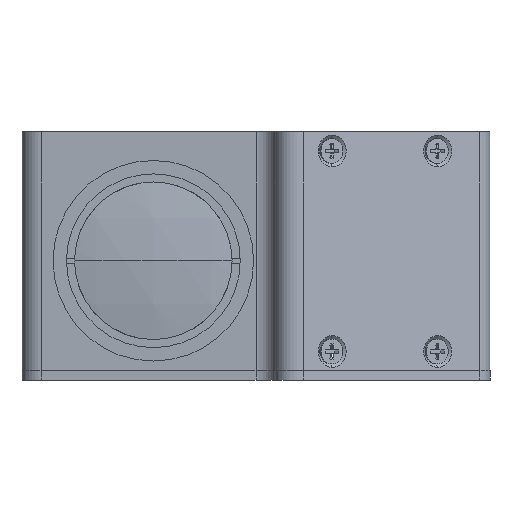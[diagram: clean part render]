
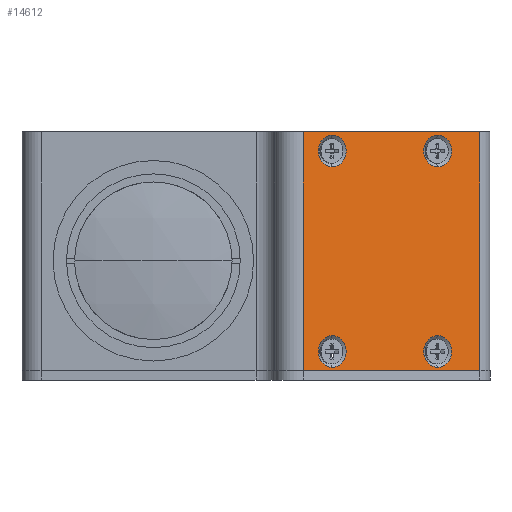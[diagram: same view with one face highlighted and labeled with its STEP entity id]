
A CAD part, left-side view. The second image highlights one B-rep face of the part: STEP entity #14612.
In plain terms, the highlighted planar face has unit normal (-0.883, -0.469, 0).
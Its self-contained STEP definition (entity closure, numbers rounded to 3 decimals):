
#26 = CARTESIAN_POINT ( 'NONE',  ( 59.561, -59.548, 26.3 ) ) ;
#28 = FACE_BOUND ( 'NONE', #5150, .T. ) ;
#335 = DIRECTION ( 'NONE',  ( 0.469, -0.883, 0. ) ) ;
#535 = DIRECTION ( 'NONE',  ( 0., 0., 1. ) ) ;
#573 = DIRECTION ( 'NONE',  ( 0., 0., -1. ) ) ;
#578 = EDGE_CURVE ( 'NONE', #13060, #7681, #11466, .T. ) ;
#619 = EDGE_CURVE ( 'NONE', #13673, #7681, #1925, .T. ) ;
#645 = CARTESIAN_POINT ( 'NONE',  ( 59.561, -59.548, -19. ) ) ;
#689 = PLANE ( 'NONE',  #11556 ) ;
#821 = EDGE_CURVE ( 'NONE', #13060, #12080, #12936, .T. ) ;
#895 = VERTEX_POINT ( 'NONE', #2470 ) ;
#934 = EDGE_CURVE ( 'NONE', #6125, #3791, #13840, .T. ) ;
#962 = EDGE_CURVE ( 'NONE', #895, #7354, #1530, .T. ) ;
#1002 = EDGE_CURVE ( 'NONE', #3452, #3465, #1164, .T. ) ;
#1019 = EDGE_CURVE ( 'NONE', #2725, #9903, #9259, .T. ) ;
#1164 = CIRCLE ( 'NONE', #8819, 3.3 ) ;
#1530 = CIRCLE ( 'NONE', #5916, 3.3 ) ;
#1660 = CARTESIAN_POINT ( 'NONE',  ( 47.824, -37.475, 23. ) ) ;
#1831 = ORIENTED_EDGE ( 'NONE', *, *, #10274, .F. ) ;
#1850 = DIRECTION ( 'NONE',  ( 0., 0., 1. ) ) ;
#1925 = LINE ( 'NONE', #6119, #4616 ) ;
#2470 = CARTESIAN_POINT ( 'NONE',  ( 47.824, -37.475, -15.7 ) ) ;
#2577 = CARTESIAN_POINT ( 'NONE',  ( 59.561, -59.548, -19. ) ) ;
#2624 = DIRECTION ( 'NONE',  ( -0.883, -0.469, 0. ) ) ;
#2725 = VERTEX_POINT ( 'NONE', #26 ) ;
#2812 = FACE_OUTER_BOUND ( 'NONE', #8778, .T. ) ;
#2823 = DIRECTION ( 'NONE',  ( 0., 0., 1. ) ) ;
#2925 = CARTESIAN_POINT ( 'NONE',  ( 64.256, -68.378, 27. ) ) ;
#3052 = DIRECTION ( 'NONE',  ( -0.883, -0.469, 0. ) ) ;
#3061 = CIRCLE ( 'NONE', #4260, 3.3 ) ;
#3187 = FACE_BOUND ( 'NONE', #5978, .T. ) ;
#3452 = VERTEX_POINT ( 'NONE', #8143 ) ;
#3465 = VERTEX_POINT ( 'NONE', #12885 ) ;
#3466 = ORIENTED_EDGE ( 'NONE', *, *, #1019, .F. ) ;
#3477 = ORIENTED_EDGE ( 'NONE', *, *, #962, .F. ) ;
#3522 = AXIS2_PLACEMENT_3D ( 'NONE', #12779, #5844, #13961 ) ;
#3540 = CIRCLE ( 'NONE', #3522, 3.3 ) ;
#3697 = EDGE_LOOP ( 'NONE', ( #3477, #4898 ) ) ;
#3722 = VECTOR ( 'NONE', #9178, 1000. ) ;
#3732 = DIRECTION ( 'NONE',  ( 0., 0., 1. ) ) ;
#3791 = VERTEX_POINT ( 'NONE', #13585 ) ;
#3861 = CARTESIAN_POINT ( 'NONE',  ( 59.561, -59.548, 19.7 ) ) ;
#4260 = AXIS2_PLACEMENT_3D ( 'NONE', #1660, #9675, #2823 ) ;
#4357 = ORIENTED_EDGE ( 'NONE', *, *, #1002, .F. ) ;
#4568 = CIRCLE ( 'NONE', #11294, 3.3 ) ;
#4616 = VECTOR ( 'NONE', #335, 1000. ) ;
#4670 = ORIENTED_EDGE ( 'NONE', *, *, #619, .F. ) ;
#4898 = ORIENTED_EDGE ( 'NONE', *, *, #11137, .F. ) ;
#5150 = EDGE_LOOP ( 'NONE', ( #4357, #11570 ) ) ;
#5369 = CARTESIAN_POINT ( 'NONE',  ( 59.561, -59.548, 23. ) ) ;
#5371 = DIRECTION ( 'NONE',  ( -0.883, -0.469, 0. ) ) ;
#5736 = CARTESIAN_POINT ( 'NONE',  ( 47.824, -37.475, -22.3 ) ) ;
#5743 = ORIENTED_EDGE ( 'NONE', *, *, #13298, .T. ) ;
#5844 = DIRECTION ( 'NONE',  ( -0.883, -0.469, 0. ) ) ;
#5855 = FACE_BOUND ( 'NONE', #12981, .T. ) ;
#5916 = AXIS2_PLACEMENT_3D ( 'NONE', #14424, #7465, #535 ) ;
#5978 = EDGE_LOOP ( 'NONE', ( #3466, #1831 ) ) ;
#6027 = DIRECTION ( 'NONE',  ( 0., 0., 1. ) ) ;
#6119 = CARTESIAN_POINT ( 'NONE',  ( 67.497, -74.473, 27. ) ) ;
#6125 = VERTEX_POINT ( 'NONE', #7015 ) ;
#6500 = DIRECTION ( 'NONE',  ( 0., 0., 1. ) ) ;
#7015 = CARTESIAN_POINT ( 'NONE',  ( 47.824, -37.475, 26.3 ) ) ;
#7283 = AXIS2_PLACEMENT_3D ( 'NONE', #5369, #13467, #6500 ) ;
#7354 = VERTEX_POINT ( 'NONE', #5736 ) ;
#7465 = DIRECTION ( 'NONE',  ( -0.883, -0.469, 0. ) ) ;
#7674 = AXIS2_PLACEMENT_3D ( 'NONE', #9465, #2624, #10641 ) ;
#7681 = VERTEX_POINT ( 'NONE', #2925 ) ;
#8010 = CARTESIAN_POINT ( 'NONE',  ( 67.497, -74.473, -23. ) ) ;
#8143 = CARTESIAN_POINT ( 'NONE',  ( 59.561, -59.548, -15.7 ) ) ;
#8380 = VECTOR ( 'NONE', #6027, 1000. ) ;
#8719 = DIRECTION ( 'NONE',  ( -0.883, -0.469, 0. ) ) ;
#8743 = CARTESIAN_POINT ( 'NONE',  ( 44.566, -31.348, -23. ) ) ;
#8778 = EDGE_LOOP ( 'NONE', ( #9495, #14090, #4670, #5743 ) ) ;
#8819 = AXIS2_PLACEMENT_3D ( 'NONE', #645, #8719, #1850 ) ;
#8911 = FACE_BOUND ( 'NONE', #3697, .T. ) ;
#8957 = VECTOR ( 'NONE', #573, 1000. ) ;
#9178 = DIRECTION ( 'NONE',  ( -0.469, 0.883, 0. ) ) ;
#9259 = CIRCLE ( 'NONE', #7283, 3.3 ) ;
#9284 = EDGE_CURVE ( 'NONE', #3465, #3452, #13861, .T. ) ;
#9465 = CARTESIAN_POINT ( 'NONE',  ( 47.824, -37.475, 23. ) ) ;
#9495 = ORIENTED_EDGE ( 'NONE', *, *, #821, .F. ) ;
#9675 = DIRECTION ( 'NONE',  ( -0.883, -0.469, 0. ) ) ;
#9903 = VERTEX_POINT ( 'NONE', #3861 ) ;
#9914 = CARTESIAN_POINT ( 'NONE',  ( 54.469, -49.971, 2. ) ) ;
#10274 = EDGE_CURVE ( 'NONE', #9903, #2725, #3540, .T. ) ;
#10600 = DIRECTION ( 'NONE',  ( -0.883, -0.469, 0. ) ) ;
#10613 = CARTESIAN_POINT ( 'NONE',  ( 64.256, -68.378, 2. ) ) ;
#10641 = DIRECTION ( 'NONE',  ( 0., 0., 1. ) ) ;
#10936 = CARTESIAN_POINT ( 'NONE',  ( 44.566, -31.348, 2. ) ) ;
#11098 = DIRECTION ( 'NONE',  ( 0., 0., 1. ) ) ;
#11102 = AXIS2_PLACEMENT_3D ( 'NONE', #2577, #10600, #3732 ) ;
#11137 = EDGE_CURVE ( 'NONE', #7354, #895, #4568, .T. ) ;
#11294 = AXIS2_PLACEMENT_3D ( 'NONE', #12289, #5371, #13469 ) ;
#11466 = LINE ( 'NONE', #10613, #8380 ) ;
#11556 = AXIS2_PLACEMENT_3D ( 'NONE', #9914, #3052, #11098 ) ;
#11570 = ORIENTED_EDGE ( 'NONE', *, *, #9284, .F. ) ;
#11604 = ORIENTED_EDGE ( 'NONE', *, *, #12540, .F. ) ;
#11651 = CARTESIAN_POINT ( 'NONE',  ( 44.566, -31.348, 27. ) ) ;
#11686 = LINE ( 'NONE', #10936, #8957 ) ;
#11709 = CARTESIAN_POINT ( 'NONE',  ( 64.256, -68.378, -23. ) ) ;
#12080 = VERTEX_POINT ( 'NONE', #8743 ) ;
#12289 = CARTESIAN_POINT ( 'NONE',  ( 47.824, -37.475, -19. ) ) ;
#12540 = EDGE_CURVE ( 'NONE', #3791, #6125, #3061, .T. ) ;
#12779 = CARTESIAN_POINT ( 'NONE',  ( 59.561, -59.548, 23. ) ) ;
#12885 = CARTESIAN_POINT ( 'NONE',  ( 59.561, -59.548, -22.3 ) ) ;
#12936 = LINE ( 'NONE', #8010, #3722 ) ;
#12981 = EDGE_LOOP ( 'NONE', ( #13249, #11604 ) ) ;
#13060 = VERTEX_POINT ( 'NONE', #11709 ) ;
#13249 = ORIENTED_EDGE ( 'NONE', *, *, #934, .F. ) ;
#13298 = EDGE_CURVE ( 'NONE', #13673, #12080, #11686, .T. ) ;
#13467 = DIRECTION ( 'NONE',  ( -0.883, -0.469, 0. ) ) ;
#13469 = DIRECTION ( 'NONE',  ( 0., 0., 1. ) ) ;
#13585 = CARTESIAN_POINT ( 'NONE',  ( 47.824, -37.475, 19.7 ) ) ;
#13673 = VERTEX_POINT ( 'NONE', #11651 ) ;
#13840 = CIRCLE ( 'NONE', #7674, 3.3 ) ;
#13861 = CIRCLE ( 'NONE', #11102, 3.3 ) ;
#13961 = DIRECTION ( 'NONE',  ( 0., 0., 1. ) ) ;
#14090 = ORIENTED_EDGE ( 'NONE', *, *, #578, .T. ) ;
#14424 = CARTESIAN_POINT ( 'NONE',  ( 47.824, -37.475, -19. ) ) ;
#14612 = ADVANCED_FACE ( 'NONE', ( #3187, #28, #8911, #5855, #2812 ), #689, .T. ) ;
